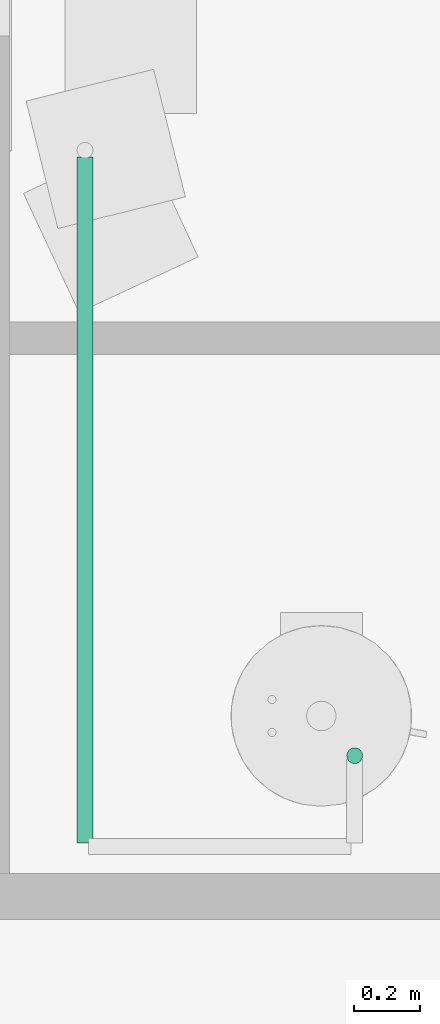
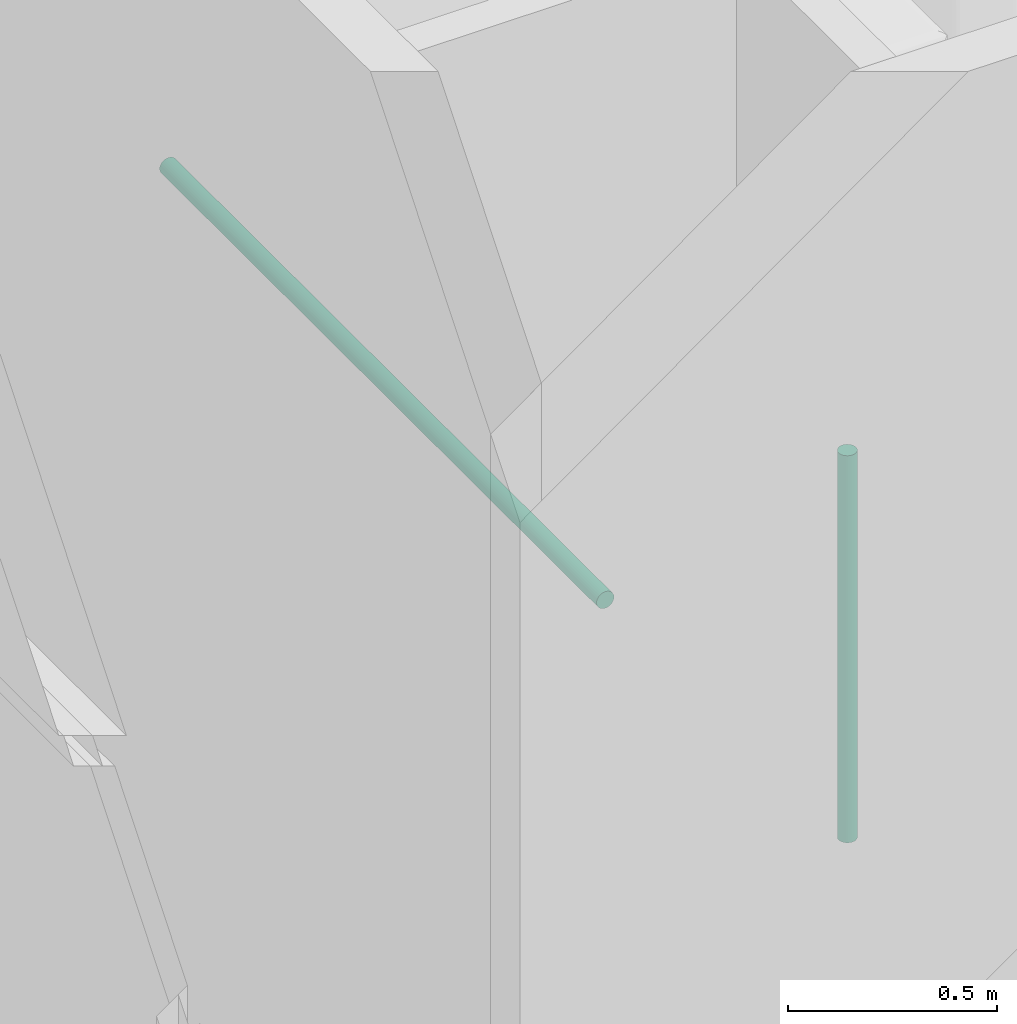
# One storey, part 26 of 71: 2 pipe segments.
"""IFC4 building model written with IfcOpenShell, lengths in centimetres."""

from ifc_helpers import new_model, entity, si_unit, converted_unit, derived_unit, direction, frame, origin, place, context, subcontext, project, spatial, arc, indexed_curve, outline, extrude, type_object, element, save


model = new_model("IFC4")

# Units and contexts
model_context = context("Model", 3, precision=0.001, world=origin(), true_north=direction((6.123233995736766e-17, 1.0)))
body_context = subcontext(model_context, "Body", "Model", "MODEL_VIEW")
ifc_project = project(units=[si_unit("LENGTHUNIT", "METRE", prefix="CENTI"), si_unit("AREAUNIT", "SQUARE_METRE"), si_unit("VOLUMEUNIT", "CUBIC_METRE"), derived_unit("THERMALTRANSMITTANCEUNIT", [(si_unit("MASSUNIT", "GRAM", prefix="KILO"), 1), (si_unit("THERMODYNAMICTEMPERATUREUNIT", "KELVIN"), -1), (si_unit("TIMEUNIT", "SECOND"), -3)]), converted_unit("PLANEANGLEUNIT", "DEGREE", entity("IfcPlaneAngleMeasure", 0.017453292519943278), si_unit("PLANEANGLEUNIT", "RADIAN"), dimensions=[0, 0, 0, 0, 0, 0, 0]), derived_unit("MASSDENSITYUNIT", [(si_unit("MASSUNIT", "GRAM", prefix="KILO"), 1), (si_unit("LENGTHUNIT", "METRE"), -3)]), derived_unit("VAPORPERMEABILITYUNIT", [(si_unit("LENGTHUNIT", "METRE"), -1), (si_unit("TIMEUNIT", "SECOND"), 1)]), derived_unit("USERDEFINED", [(si_unit("MASSUNIT", "GRAM", prefix="KILO"), 1), (si_unit("TIMEUNIT", "SECOND"), -3), (si_unit("LENGTHUNIT", "METRE"), 3), (si_unit("ELECTRICCURRENTUNIT", "AMPERE"), -2)]), derived_unit("SPECIFICHEATCAPACITYUNIT", [(si_unit("THERMODYNAMICTEMPERATUREUNIT", "KELVIN"), -1), (si_unit("LENGTHUNIT", "METRE"), 2), (si_unit("TIMEUNIT", "SECOND"), -2)]), derived_unit("THERMALCONDUCTANCEUNIT", [(si_unit("MASSUNIT", "GRAM", prefix="KILO"), 1), (si_unit("THERMODYNAMICTEMPERATUREUNIT", "KELVIN"), -1), (si_unit("TIMEUNIT", "SECOND"), -3), (si_unit("LENGTHUNIT", "METRE"), 1)]), si_unit("PRESSUREUNIT", "PASCAL"), derived_unit("MODULUSOFELASTICITYUNIT", [(si_unit("MASSUNIT", "GRAM", prefix="KILO"), 1), (si_unit("LENGTHUNIT", "METRE"), -1), (si_unit("TIMEUNIT", "SECOND"), -2)]), derived_unit("THERMALEXPANSIONCOEFFICIENTUNIT", [(si_unit("THERMODYNAMICTEMPERATUREUNIT", "KELVIN"), -1)])], contexts=[model_context])

# Site, building, storey
site_placement = place(None, origin())
site = spatial("IfcSite", under=ifc_project, at=site_placement, Name="Default", CompositionType="ELEMENT")
building_placement = place(site_placement, origin())
building = spatial("IfcBuilding", under=site, at=building_placement, Name="IDS Escape Game Building", CompositionType="ELEMENT")
storey_placement = place(building_placement, frame((0.0, 0.0, 400.0)))
storey = spatial("IfcBuildingStorey", under=building, at=storey_placement, Name="01_First Floor", CompositionType="ELEMENT", Elevation=399.99999999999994)

# Pipe segments
pipe_segment_type = type_object("IfcPipeSegmentType", Name="Pipe Types:Piping Aluminum", PredefinedType="NOTDEFINED")
pipe_segment_1_placement = place(storey_placement, origin())
element("IfcPipeSegment", 1, at=pipe_segment_1_placement, inside=storey, type_object=pipe_segment_type, Name="Pipe Types:Piping Aluminum", ObjectType="Pipe Types:Piping Aluminum", PredefinedType="NOTDEFINED", context=body_context, shape_type="SweptSolid", body=[
    extrude(outline(indexed_curve([(2.412999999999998, 0.0), (1.7062486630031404, 1.7062486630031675), (-1.3535839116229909e-14, 2.412999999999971), (-1.7062486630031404, 1.7062486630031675), (-2.412999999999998, 0.0), (-1.706248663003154, -1.7062486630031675), (-1.3535839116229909e-14, -2.412999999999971), (1.7062486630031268, -1.7062486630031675)], segments=[arc(1, 2, 3), arc(3, 4, 5), arc(5, 6, 7), arc(7, 8, 1)], self_intersect=False)), frame((112.15000000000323, 2600.9000000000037, 128.0), z_axis=(0.0, 0.0, 1.0), x_axis=(-1.0, 0.0, 0.0)), (0.0, 0.0, 1.0), 112.90000000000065),
])
pipe_segment_2_placement = place(storey_placement, origin())
element("IfcPipeSegment", 2, at=pipe_segment_2_placement, inside=storey, type_object=pipe_segment_type, Name="Pipe Types:Piping Aluminum", ObjectType="Pipe Types:Piping Aluminum", PredefinedType="NOTDEFINED", context=body_context, shape_type="SweptSolid", body=[
    extrude(outline(indexed_curve([(2.4130000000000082, 0.0), (1.7062486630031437, 1.7062486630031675), (-3.383959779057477e-15, 2.412999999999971), (-1.7062486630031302, 1.7062486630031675), (-2.412999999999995, 0.0), (-1.7062486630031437, -1.7062486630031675), (-6.767919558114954e-15, -2.412999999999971), (1.706248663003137, -1.7062486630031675)], segments=[arc(1, 2, 3), arc(3, 4, 5), arc(5, 6, 7), arc(7, 8, 1)], self_intersect=False)), frame((30.046716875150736, 2574.3648279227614, 242.0), z_axis=(0.0, 1.0, 0.0), x_axis=(1.0, 0.0, 0.0)), (0.0, 0.0, 1.0), 208.80000000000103),
])

save(model, "model.ifc")
